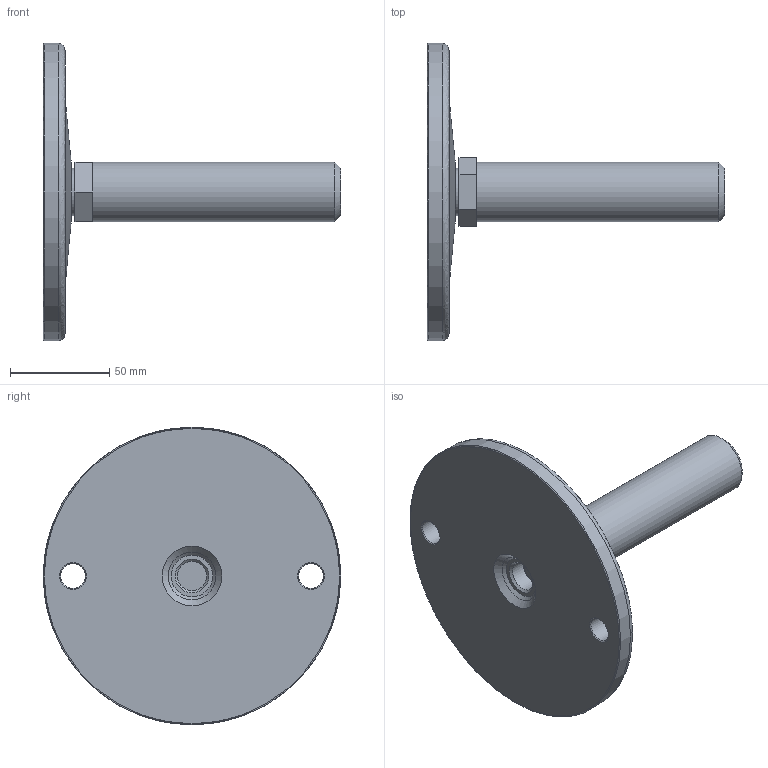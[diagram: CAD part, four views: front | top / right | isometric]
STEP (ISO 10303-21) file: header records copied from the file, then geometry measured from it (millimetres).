
FILE_DESCRIPTION(('STEP AP203'),'2;1');
FILE_NAME('15539.stp','2017-02-20T16:47:02',(''),(''),'2008.1.107','THINKDESIGN','');
FILE_SCHEMA(('CONFIG_CONTROL_DESIGN'));
Length unit declared in the file: millimetre
Bounding box: 150 x 150 x 150 mm (x, y, z)
Volume: 292516 mm3; surface area: 56838 mm2
Topology: 4 solids, 4 shells, 35 faces, 91 edges, 68 vertices
Faces by surface type: plane 17, bspline 12, cylinder 6
Full cylindrical faces by diameter (mm): 12.5 x2, 14.7 x1, 24 x1, 30 x1, 150 x1
Entity records: 2134 total; most frequent: CARTESIAN_POINT 1044, DIRECTION 194, ORIENTED_EDGE 180, EDGE_CURVE 90, AXIS2_PLACEMENT_3D 80, VERTEX_POINT 66, CIRCLE 57, EDGE_LOOP 44
